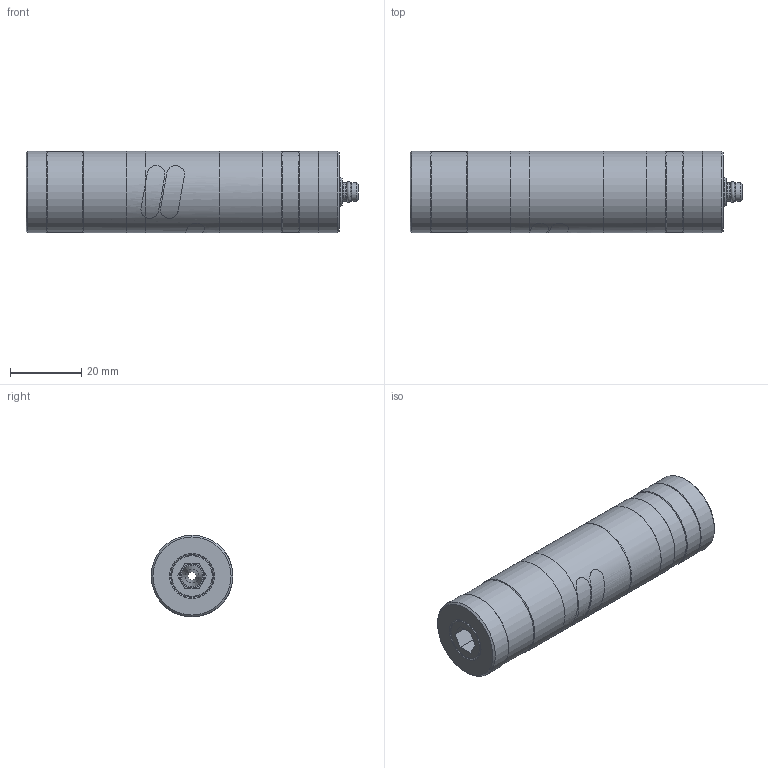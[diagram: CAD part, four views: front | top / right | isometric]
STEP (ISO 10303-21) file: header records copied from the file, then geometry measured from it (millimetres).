
FILE_DESCRIPTION( ( 'Unknown' ), '1' );
FILE_NAME( 'C:/Documents and Settings/Leeho/官帕 拳搁/VC203S.stp', 'Unknown', ( 'Unknown' ), ( 'Unknown' ), 'PSStep 10.0', 'Unknown', ' ' );
FILE_SCHEMA( ( 'automotive_design' ) );
Length unit declared in the file: millimetre
Products named in the file (6): VTS-M14-熱; Assem1; VTS-M14(Housing)-熱; VTS-M14(Cover)-熱; 1
Bounding box: 93.5 x 23 x 23 mm (x, y, z)
Volume: 36374.4 mm3; surface area: 49054.4 mm2
Topology: 11 solids, 11 shells, 463 faces, 900 edges, 539 vertices
Faces by surface type: plane 186, cylinder 120, torus 101, cone 42, bspline 12, revolution 2
Full cylindrical faces by diameter (mm): 2.3 x4, 3.6 x2, 3.8 x4, 4.769 x2, 5.2 x4, 7 x7, 7.4 x4, 7.6 x4, 8 x2, 8.4 x2, 9 x8, 9.1 x3, 9.6 x2, 10 x4, 10.3 x2, 10.6 x2, 11 x3, 11.9 x4, 12 x9, 12.8 x3, 14 x6, 17 x3, 20.6 x12, 21.4 x6, 22.6 x3, 23 x6
Entity records: 7562 total; most frequent: CARTESIAN_POINT 3027, DIRECTION 794, ORIENTED_EDGE 526, AXIS2_PLACEMENT_3D 356, EDGE_LOOP 341, FACE_OUTER_BOUND 277, EDGE_CURVE 263, VERTEX_POINT 218
